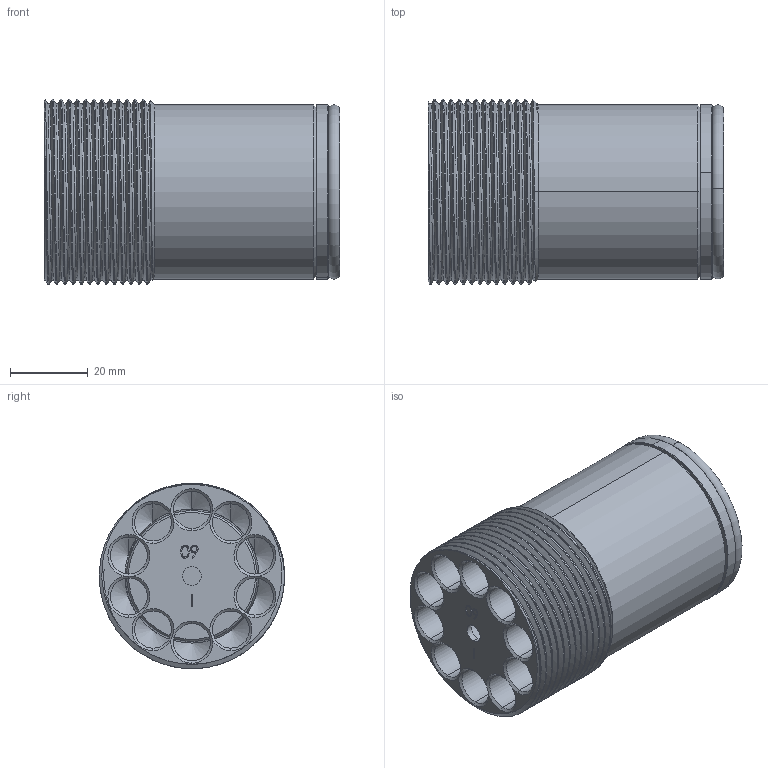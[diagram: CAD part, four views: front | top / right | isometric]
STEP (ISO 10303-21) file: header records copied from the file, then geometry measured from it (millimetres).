
FILE_DESCRIPTION (( 'STEP AP214' ), '1' );
FILE_NAME ('ICT-B-24-60.STEP', '2026-02-13T14:40:34', ( '' ), ( '' ), 'SwSTEP 2.0', 'SolidWorks 2025', '' );
FILE_SCHEMA (( 'AUTOMOTIVE_DESIGN' ));
Length unit declared in the file: inch
Products named in the file (1): ICT-B-24-60
Bounding box: 75.82 x 47.58 x 47.62 mm (x, y, z)
Volume: 48034.9 mm3; surface area: 41131.8 mm2
Topology: 1 solids, 2 shells, 191 faces, 532 edges, 338 vertices
Faces by surface type: cylinder 74, cone 58, plane 26, bspline 21, torus 10, sphere 2
Entity records: 10576 total; most frequent: CARTESIAN_POINT 5836, ORIENTED_EDGE 1054, DIRECTION 959, EDGE_CURVE 527, AXIS2_PLACEMENT_3D 395, VERTEX_POINT 335, CIRCLE 224, EDGE_LOOP 208
